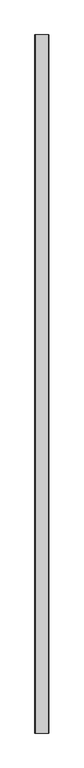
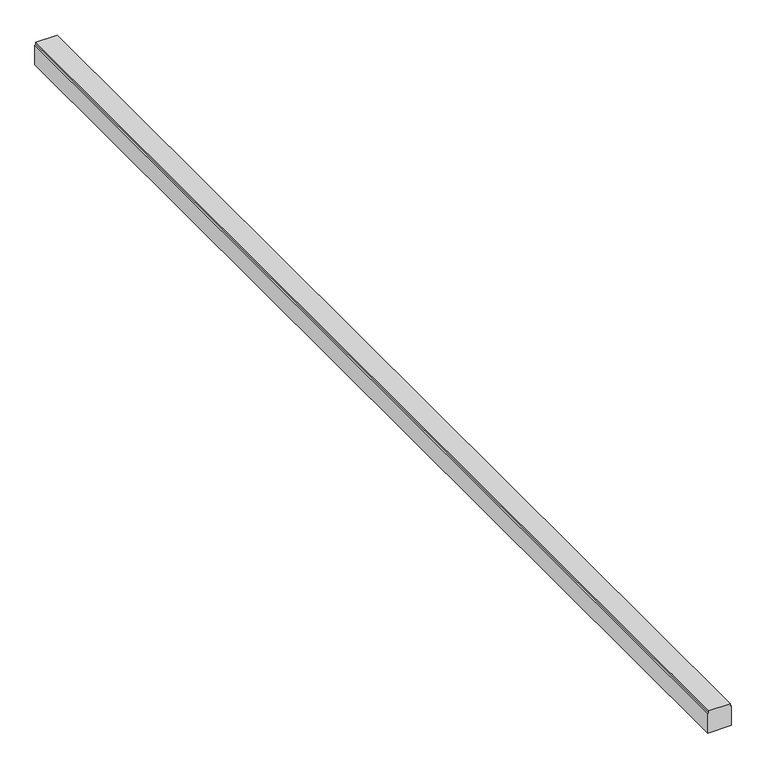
"""IFC4 building model written with IfcOpenShell, lengths in millimetres: proxy geometry, Кабель-каналы_перфорированные : Кабель-канал перфорированный 40х40 перфорация 4/6мм."""

from ifc_helpers import new_model, si_unit, frame, origin, place, context, project, spatial, polyline, outline, extrude, source, transform, mapped, element, save


def generic_models_d8408940(model_context):
    return source(origin(), model_context, "Body", "SweptSolid", [
        extrude(outline(polyline([(500.0, 0.0), (535.4686048, 0.0), (536.545727, -1.696289), (540.0, -1.696289), (540.0, -38.1977999), (536.3616607, -38.1977999), (535.4772989, -40.0), (500.0, -40.0), (500.0, 0.0)])), frame((0.0, -2000.0, 0.0), z_axis=(0.0, 1.0, 0.0), x_axis=(0.0, 0.0, 1.0)), (0.0, 0.0, 1.0), 2000.0),
    ])


if __name__ == "__main__":
    model = new_model("IFC4")
    model_context = context("Model", 3, world=origin())
    ifc_project = project(units=[si_unit("LENGTHUNIT", "METRE", prefix="MILLI")], contexts=[model_context])
    site = spatial("IfcSite", under=ifc_project)
    building = spatial("IfcBuilding", under=site)
    placement = place(None, origin())
    generic_models_shape = generic_models_d8408940(model_context)
    element("IfcBuildingElementProxy", 1, Name="Кабель-каналы_перфорированные : Кабель-канал перфорированный 40х40 перфорация 4/6мм", ObjectType="Кабель-каналы_перфорированные : Кабель-канал перфорированный 40х40 перфорация 4/6мм", at=placement, inside=building, context=model_context, shape_type="MappedRepresentation", body=[
        mapped(generic_models_shape, transform((0.0, 0.0, 0.0), x_axis=(1.0, 0.0, 0.0), y_axis=(0.0, 1.0, 0.0), z_axis=(0.0, 0.0, 1.0))),
    ])
    save(model, "model.ifc")
